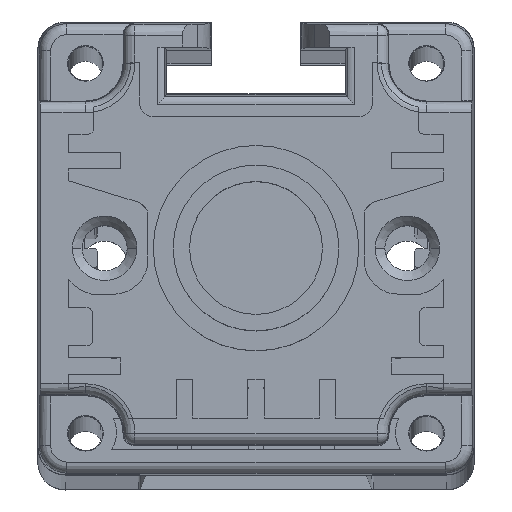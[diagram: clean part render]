
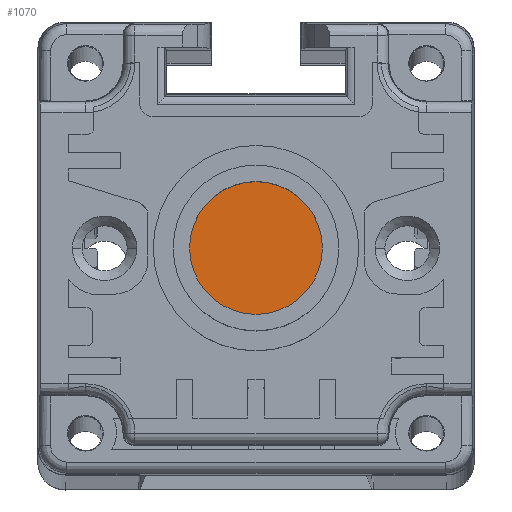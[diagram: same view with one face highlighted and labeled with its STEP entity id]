
A CAD part, top view. The second image highlights one B-rep face of the part: STEP entity #1070.
In plain terms, the highlighted planar face has unit normal (0, 0, 1).
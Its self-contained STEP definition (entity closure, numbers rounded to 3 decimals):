
#1070=ADVANCED_FACE('',(#2034),#1539,.T.);
#1539=PLANE('',#13341);
#2034=FACE_OUTER_BOUND('',#2672,.T.);
#2672=EDGE_LOOP('',(#7402,#7403));
#7402=ORIENTED_EDGE('',*,*,#11440,.T.);
#7403=ORIENTED_EDGE('',*,*,#11438,.T.);
#9851=VERTEX_POINT('',#19936);
#9852=VERTEX_POINT('',#19938);
#11438=EDGE_CURVE('',#9852,#9851,#12517,.T.);
#11440=EDGE_CURVE('',#9851,#9852,#12518,.T.);
#12517=CIRCLE('',#13337,4.85);
#12518=CIRCLE('',#13339,4.85);
#13337=AXIS2_PLACEMENT_3D('',#19937,#15875,#15876);
#13339=AXIS2_PLACEMENT_3D('',#19941,#15880,#15881);
#13341=AXIS2_PLACEMENT_3D('',#19943,#15884,#15885);
#15875=DIRECTION('',(0.,0.,1.));
#15876=DIRECTION('',(1.,0.,0.));
#15880=DIRECTION('',(0.,0.,1.));
#15881=DIRECTION('',(-1.,0.,0.));
#15884=DIRECTION('',(0.,0.,1.));
#15885=DIRECTION('',(1.,0.,0.));
#19936=CARTESIAN_POINT('',(20.025,26.865,16.));
#19937=CARTESIAN_POINT('',(24.875,26.865,16.));
#19938=CARTESIAN_POINT('',(29.725,26.865,16.));
#19941=CARTESIAN_POINT('',(24.875,26.865,16.));
#19943=CARTESIAN_POINT('',(0.,0.,16.));
